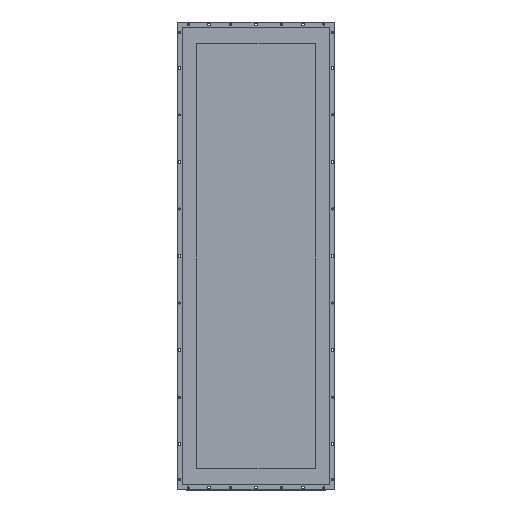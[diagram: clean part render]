
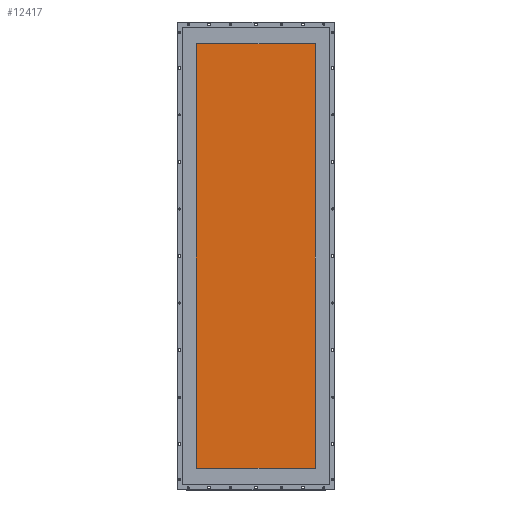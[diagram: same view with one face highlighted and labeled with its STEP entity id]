
A CAD part, top view. The second image highlights one B-rep face of the part: STEP entity #12417.
In plain terms, the highlighted planar face has unit normal (0, 0, 1) as drawn and (0, 0, -1) by its records, which use the part's own axes.
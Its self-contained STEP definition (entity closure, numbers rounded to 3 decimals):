
#2501=FACE_OUTER_BOUND('',#3557,.T.);
#3557=EDGE_LOOP('',(#11370,#11371,#11372,#11373));
#4499=LINE('',#20867,#5459);
#4502=LINE('',#20872,#5462);
#4504=LINE('',#20876,#5464);
#4506=LINE('',#20879,#5466);
#5459=VECTOR('',#17381,10.);
#5462=VECTOR('',#17386,10.);
#5464=VECTOR('',#17390,10.);
#5466=VECTOR('',#17394,10.);
#6539=VERTEX_POINT('',#20865);
#6540=VERTEX_POINT('',#20866);
#6541=VERTEX_POINT('',#20871);
#6542=VERTEX_POINT('',#20875);
#8147=EDGE_CURVE('',#6539,#6540,#4499,.T.);
#8150=EDGE_CURVE('',#6541,#6539,#4502,.T.);
#8152=EDGE_CURVE('',#6542,#6541,#4504,.T.);
#8154=EDGE_CURVE('',#6540,#6542,#4506,.T.);
#11370=ORIENTED_EDGE('',*,*,#8147,.T.);
#11371=ORIENTED_EDGE('',*,*,#8154,.T.);
#11372=ORIENTED_EDGE('',*,*,#8152,.T.);
#11373=ORIENTED_EDGE('',*,*,#8150,.T.);
#11759=PLANE('',#13783);
#12417=ADVANCED_FACE('',(#2501),#11759,.F.);
#13783=AXIS2_PLACEMENT_3D('',#20883,#17400,#17401);
#17381=DIRECTION('',(0.,1.,0.));
#17386=DIRECTION('',(-1.,0.,0.));
#17390=DIRECTION('',(0.,-1.,0.));
#17394=DIRECTION('',(1.,0.,0.));
#17400=DIRECTION('center_axis',(0.,0.,1.));
#17401=DIRECTION('ref_axis',(1.,0.,0.));
#20865=CARTESIAN_POINT('',(-451.5,-126.5,0.));
#20866=CARTESIAN_POINT('',(-451.5,126.5,0.));
#20867=CARTESIAN_POINT('',(-451.5,-63.25,0.));
#20871=CARTESIAN_POINT('',(451.5,-126.5,0.));
#20872=CARTESIAN_POINT('',(225.75,-126.5,0.));
#20875=CARTESIAN_POINT('',(451.5,126.5,0.));
#20876=CARTESIAN_POINT('',(451.5,63.25,0.));
#20879=CARTESIAN_POINT('',(-225.75,126.5,0.));
#20883=CARTESIAN_POINT('Origin',(0.,0.,
0.));
